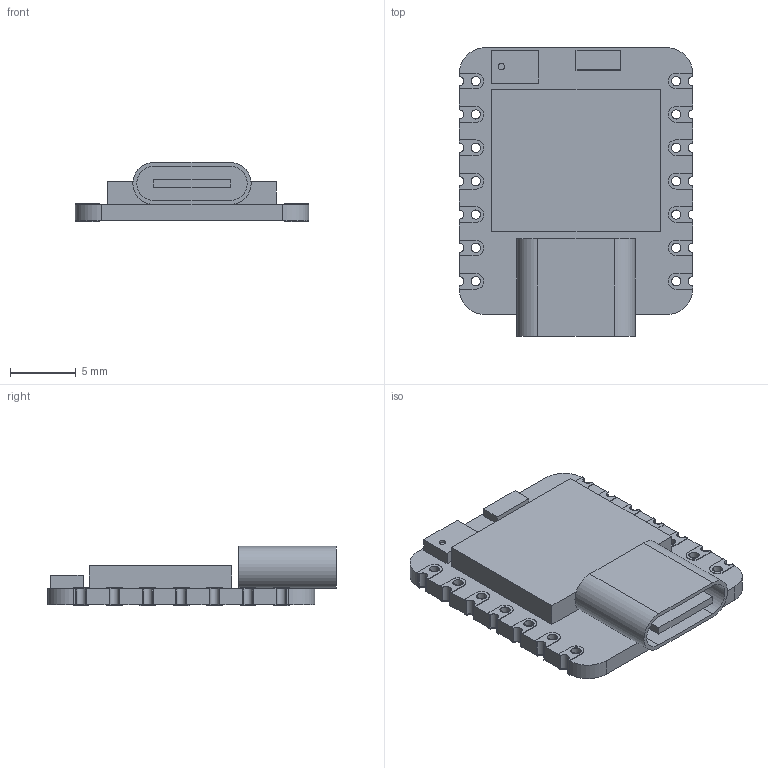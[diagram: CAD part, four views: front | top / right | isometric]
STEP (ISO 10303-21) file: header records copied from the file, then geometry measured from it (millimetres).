
FILE_DESCRIPTION(('FreeCAD Model'),'2;1');
FILE_NAME('Open CASCADE Shape Model','2025-01-27T20:31:43',( 'Krisjanis Rijnieks'),(''),'Open CASCADE STEP processor 7.7', 'FreeCAD','Unknown');
FILE_SCHEMA(('AUTOMOTIVE_DESIGN { 1 0 10303 214 1 1 1 1 }'));
Length unit declared in the file: millimetre
Products named in the file (22): nRF52840_Sense; SoC_nRF_Sense; Mic_nRF_Sense; Antenna_nRF_Sense; XIAO_Generic; Board; USB; Contact; Contact Clones; Body007; Body008; Body009; Body010; Body011; Body012; Body013; Body014; Body015; Body016; Body017; Body018; Body019
Assembly tree (21 placements, depth 4):
  nRF52840_Sense
    SoC_nRF_Sense
    Mic_nRF_Sense
    Antenna_nRF_Sense
    XIAO_Generic
      Board
      USB
      Contact
      Contact Clones
        Body007
        Body008
        Body009
        Body010
        Body011
        Body012
        Body013
        Body014
        Body015
        Body016
        Body017
        Body018
        Body019
Bounding box: 17.78 x 21.97 x 4.51 mm (x, y, z)
Volume: 809.5 mm3; surface area: 1838.3 mm2
Topology: 19 solids, 19 shells, 312 faces, 827 edges, 556 vertices
Faces by surface type: plane 191, cylinder 121
Full cylindrical faces by diameter (mm): 0.5 x1, 0.7 x14, 0.8 x28
Entity records: 10442 total; most frequent: DIRECTION 1737, CARTESIAN_POINT 1731, ORIENTED_EDGE 1654, EDGE_CURVE 827, AXIS2_PLACEMENT_3D 590, LINE 557, VECTOR 557, VERTEX_POINT 556
